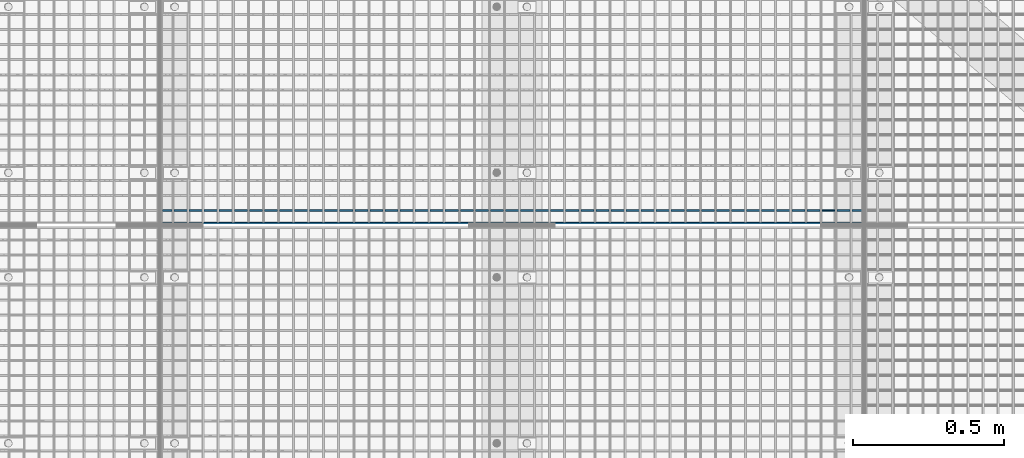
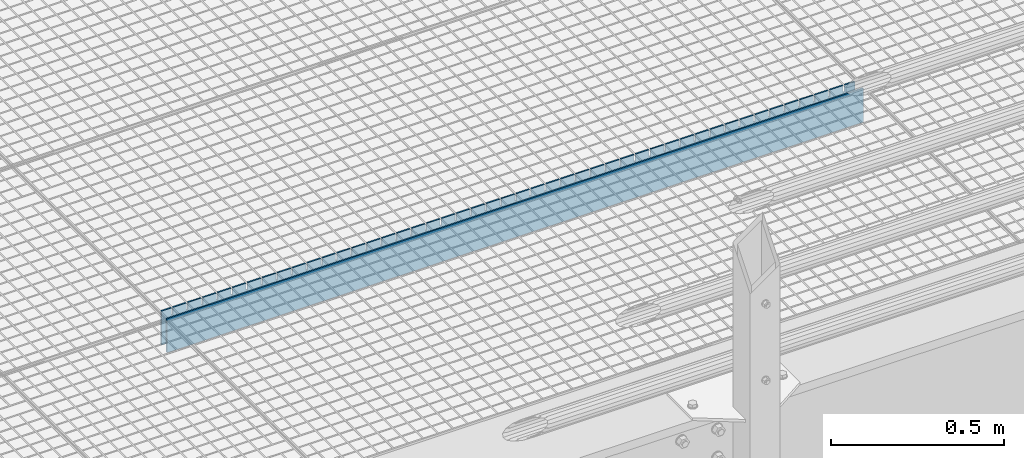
# One storey, part 192 of 1530: 2 beams.
"""IFC2X3 building model written with IfcOpenShell, lengths in millimetres."""

from ifc_helpers import new_model, si_unit, frame, origin_with_axes, place, context, subcontext, project, spatial, faceted_brep, material, type_object, element, save


model = new_model("IFC2X3")

# Units and contexts
model_context = context("Model", 3, precision=1e-05, world=origin_with_axes())
body_context = subcontext(model_context, "Body", "Model", "MODEL_VIEW")
ifc_project = project(units=[si_unit("LENGTHUNIT", "METRE", prefix="MILLI"), si_unit("AREAUNIT", "SQUARE_METRE"), si_unit("VOLUMEUNIT", "CUBIC_METRE"), si_unit("MASSUNIT", "GRAM", prefix="KILO"), si_unit("TIMEUNIT", "SECOND"), si_unit("PLANEANGLEUNIT", "RADIAN"), si_unit("SOLIDANGLEUNIT", "STERADIAN"), si_unit("THERMODYNAMICTEMPERATUREUNIT", "DEGREE_CELSIUS"), si_unit("LUMINOUSINTENSITYUNIT", "LUMEN")], contexts=[model_context])

# Site, building, storey
site_placement = place(None, origin_with_axes())
site = spatial("IfcSite", under=ifc_project, at=site_placement, Name="Brattvåg", CompositionType="ELEMENT")
building_placement = place(site_placement, origin_with_axes())
building = spatial("IfcBuilding", under=site, at=building_placement, Name="Undefined", CompositionType="ELEMENT")
storey_placement = place(building_placement, origin_with_axes())
storey = spatial("IfcBuildingStorey", under=building, at=storey_placement, Name="Undefined", CompositionType="ELEMENT", Elevation=0.0)

# Beams
ifc_material = material(Name="STEEL/S355J2")
beam_type = type_object("IfcBeamType", Name="120*5", PredefinedType="NOTDEFINED")
beam_1_placement = place(storey_placement, frame((5234.01317977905, 1099.99487304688, -59.9998626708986), z_axis=(0.0, 0.0, 1.0), x_axis=(-1.0, 1.99999855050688e-09, 0.0)))
element("IfcBeam", 1, at=beam_1_placement, inside=storey, type_object=beam_type, material=ifc_material, Name="GRATING", context=body_context, shape_type="Brep", body=[
    faceted_brep([(83.5790367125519, -2.50000000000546, 60.0000722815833), (83.5790367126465, -2.50000000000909, 35.0001373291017), (83.5790367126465, 2.50022888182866, 35.0001373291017), (83.5790367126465, 2.5, 60.0), (88.5790367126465, -2.50000000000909, 35.0001373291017), (88.5790367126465, 2.50022888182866, 35.0001373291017), (88.5790367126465, -2.50000000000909, 60.0001373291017), (88.5790367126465, 2.5, 60.0), (38.6284370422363, -2.50000000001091, 60.0001373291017), (38.6284370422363, 2.5, 60.0), (38.6284370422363, 2.49999999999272, 35.0001373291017), (38.6284370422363, -2.50000000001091, 35.0001373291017), (33.6284370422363, 2.49999999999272, 35.0001373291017), (33.6284370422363, -2.50000000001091, 35.0001373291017), (33.6284370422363, -2.5, 60.0), (33.6284370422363, 2.5, 60.0), (0.0, 2.5, 60.0), (0.0, -2.5, 60.0), (0.0, -2.5, -60.0), (0.0, 2.5, -60.0), (2319.99865722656, 2.5, -60.0), (2319.99865722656, -2.5, -60.0), (2319.99865722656, -2.5, 60.0), (2319.99865722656, 2.5, 60.0), (2286.37871932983, 2.5, 60.0), (2286.37871932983, -2.50000000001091, 60.0001373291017), (2286.37871932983, 2.49999999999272, 35.0001373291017), (2286.37871932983, -2.50000000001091, 35.0001373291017), (2281.37871932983, 2.49999999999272, 35.0001373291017), (2281.37871932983, -2.50000000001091, 35.0001373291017), (2281.37871932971, -2.50000000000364, 60.0000634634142), (2281.37871932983, 2.5, 60.0), (2236.42859649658, 2.5, 60.0), (2236.42859649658, -2.50000000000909, 60.0001373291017), (2236.42859649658, 2.50022888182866, 35.0001373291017), (2236.42859649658, -2.50000000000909, 35.0001373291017), (2231.42859649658, 2.50022888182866, 35.0001373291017), (2231.42859649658, -2.50000000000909, 35.0001373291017), (2231.42859649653, -2.50000000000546, 60.0000910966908), (2231.42859649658, 2.5, 60.0), (2186.47847366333, 2.5, 60.0), (2186.47847366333, -2.50000000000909, 60.0001373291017), (2186.47847366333, 2.50022888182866, 35.0001373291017), (2186.47847366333, -2.50000000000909, 35.0001373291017), (2181.47847366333, 2.50022888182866, 35.0001373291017), (2181.47847366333, -2.50000000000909, 35.0001373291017), (2181.47847366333, -2.5, 60.0), (2181.47847366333, 2.5, 60.0), (2136.52882766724, 2.5, 60.0), (2136.52882766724, -2.50000000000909, 60.0001373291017), (2136.52882766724, 2.50022888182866, 35.0001373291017), (2136.52882766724, -2.50000000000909, 35.0001373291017), (2131.52882766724, 2.50022888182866, 35.0001373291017), (2131.52882766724, -2.50000000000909, 35.0001373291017), (2131.52882766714, -2.50000000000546, 60.0000722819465), (2131.52882766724, 2.5, 60.0), (2086.57870483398, 2.5, 60.0), (2086.57870483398, -2.50000000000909, 60.0001373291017), (2086.57870483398, 2.50022888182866, 35.0001373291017), (2086.57870483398, -2.50000000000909, 35.0001373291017), (2081.57870483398, 2.50022888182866, 35.0001373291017), (2081.57870483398, -2.50000000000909, 35.0001373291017), (2081.57870483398, -2.5, 60.0), (2081.57870483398, 2.5, 60.0), (2036.62858200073, 2.5, 60.0), (2036.62858200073, -2.50000000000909, 60.0001373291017), (2036.62858200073, 2.50022888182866, 35.0001373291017), (2036.62858200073, -2.50000000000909, 35.0001373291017), (2031.62858200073, 2.50022888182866, 35.0001373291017), (2031.62858200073, -2.50000000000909, 35.0001373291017), (2031.62858200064, -2.50000000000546, 60.0000722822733), (2031.62858200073, 2.5, 60.0), (1986.67845916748, 2.5, 60.0), (1986.67845916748, -2.50000000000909, 60.0001373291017), (1986.67845916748, 2.50022888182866, 35.0001373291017), (1986.67845916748, -2.50000000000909, 35.0001373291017), (1981.67845916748, 2.50022888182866, 35.0001373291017), (1981.67845916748, -2.50000000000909, 35.0001373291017), (1981.67845916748, -2.5, 60.0), (1981.67845916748, 2.5, 60.0), (1936.72881317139, 2.5, 60.0), (1936.72881317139, -2.50000000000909, 60.0001373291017), (1936.72881317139, 2.50022888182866, 35.0001373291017), (1936.72881317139, -2.50000000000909, 35.0001373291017), (1931.72881317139, 2.50022888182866, 35.0001373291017), (1931.72881317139, -2.50000000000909, 35.0001373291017), (1931.72881317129, -2.50000000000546, 60.0000722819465), (1931.72881317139, 2.5, 60.0), (1886.77869033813, 2.5, 60.0), (1886.77869033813, -2.50000000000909, 60.0001373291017), (1886.77869033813, 2.50022888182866, 35.0001373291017), (1886.77869033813, -2.50000000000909, 35.0001373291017), (1881.77869033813, 2.50022888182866, 35.0001373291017), (1881.77869033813, -2.50000000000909, 35.0001373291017), (1881.77869033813, -2.5, 60.0), (1881.77869033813, 2.5, 60.0), (1836.82856750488, 2.5, 60.0), (1836.82856750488, -2.50000000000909, 60.0001373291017), (1836.82856750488, 2.50022888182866, 35.0001373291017), (1836.82856750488, -2.50000000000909, 35.0001373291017), (1831.82856750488, 2.50022888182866, 35.0001373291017), (1831.82856750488, -2.50000000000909, 35.0001373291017), (1831.82856750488, -2.5, 60.0), (1831.82856750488, 2.5, 60.0), (1786.87892150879, 2.5, 60.0), (1786.87892150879, -2.50000000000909, 60.0001373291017), (1786.87892150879, 2.50022888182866, 35.0001373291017), (1786.87892150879, -2.50000000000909, 35.0001373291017), (1781.87892150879, 2.50022888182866, 35.0001373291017), (1781.87892150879, -2.50000000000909, 35.0001373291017), (1781.87892150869, -2.50000000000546, 60.0000722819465), (1781.87892150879, 2.5, 60.0), (1736.92879867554, 2.5, 60.0), (1736.92879867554, -2.50000000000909, 60.0001373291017), (1736.92879867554, 2.50022888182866, 35.0001373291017), (1736.92879867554, -2.50000000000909, 35.0001373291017), (1731.92879867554, 2.50022888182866, 35.0001373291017), (1731.92879867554, -2.50000000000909, 35.0001373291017), (1731.92879867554, -2.5, 60.0), (1731.92879867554, 2.5, 60.0), (1686.97867584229, 2.5, 60.0), (1686.97867584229, -2.50000000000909, 60.0001373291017), (1686.97867584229, 2.50022888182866, 35.0001373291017), (1686.97867584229, -2.50000000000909, 35.0001373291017), (1681.97867584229, 2.50022888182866, 35.0001373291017), (1681.97867584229, -2.50000000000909, 35.0001373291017), (1681.97867584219, -2.50000000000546, 60.0000722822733), (1681.97867584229, 2.5, 60.0), (1637.02855300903, 2.5, 60.0), (1637.02855300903, -2.50000000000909, 60.0001373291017), (1637.02855300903, 2.50022888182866, 35.0001373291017), (1637.02855300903, -2.50000000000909, 35.0001373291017), (1632.02855300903, 2.50022888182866, 35.0001373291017), (1632.02855300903, -2.50000000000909, 35.0001373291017), (1632.02855300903, -2.5, 60.0), (1632.02855300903, 2.5, 60.0), (1587.07890701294, 2.5, 60.0), (1587.07890701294, -2.50000000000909, 60.0001373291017), (1587.07890701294, 2.50022888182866, 35.0001373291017), (1587.07890701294, -2.50000000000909, 35.0001373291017), (1582.07890701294, 2.50022888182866, 35.0001373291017), (1582.07890701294, -2.50000000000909, 35.0001373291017), (1582.07890701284, -2.50000000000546, 60.0000722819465), (1582.07890701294, 2.5, 60.0), (1537.12878417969, 2.5, 60.0), (1537.12878417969, -2.50000000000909, 60.0001373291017), (1537.12878417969, 2.50022888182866, 35.0001373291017), (1537.12878417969, -2.50000000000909, 35.0001373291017), (1532.12878417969, 2.50022888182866, 35.0001373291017), (1532.12878417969, -2.50000000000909, 35.0001373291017), (1532.12878417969, -2.5, 60.0), (1532.12878417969, 2.5, 60.0), (1487.17866134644, 2.5, 60.0), (1487.17866134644, -2.50000000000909, 60.0001373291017), (1487.17866134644, 2.50022888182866, 35.0001373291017), (1487.17866134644, -2.50000000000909, 35.0001373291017), (1482.17866134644, 2.50022888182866, 35.0001373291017), (1482.17866134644, -2.50000000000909, 35.0001373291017), (1482.17866134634, -2.50000000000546, 60.0000722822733), (1482.17866134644, 2.5, 60.0), (1437.22853851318, 2.5, 60.0), (1437.22853851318, -2.50000000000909, 60.0001373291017), (1437.22853851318, 2.50022888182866, 35.0001373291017), (1437.22853851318, -2.50000000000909, 35.0001373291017), (1432.22853851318, 2.50022888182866, 35.0001373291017), (1432.22853851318, -2.50000000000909, 35.0001373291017), (1432.22853851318, -2.5, 60.0), (1432.22853851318, 2.5, 60.0), (1387.27889251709, 2.5, 60.0), (1387.27889251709, -2.50000000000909, 60.0001373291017), (1387.27889251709, 2.50022888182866, 35.0001373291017), (1387.27889251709, -2.50000000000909, 35.0001373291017), (1382.27889251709, 2.50022888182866, 35.0001373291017), (1382.27889251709, -2.50000000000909, 35.0001373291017), (1382.278892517, -2.50000000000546, 60.0000722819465), (1382.27889251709, 2.5, 60.0), (1337.32876968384, 2.5, 60.0), (1337.32876968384, -2.50000000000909, 60.0001373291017), (1337.32876968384, 2.50022888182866, 35.0001373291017), (1337.32876968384, -2.50000000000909, 35.0001373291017), (1332.32876968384, 2.50022888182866, 35.0001373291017), (1332.32876968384, -2.50000000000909, 35.0001373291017), (1332.32876968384, -2.5, 60.0), (1332.32876968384, 2.5, 60.0), (1287.37864685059, 2.5, 60.0), (1287.37864685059, -2.50000000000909, 60.0001373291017), (1287.37864685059, 2.50022888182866, 35.0001373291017), (1287.37864685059, -2.50000000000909, 35.0001373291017), (1282.37864685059, 2.50022888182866, 35.0001373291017), (1282.37864685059, -2.50000000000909, 35.0001373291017), (1282.37864685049, -2.50000000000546, 60.0000722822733), (1282.37864685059, 2.5, 60.0), (1237.42852401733, 2.5, 60.0), (1237.42852401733, -2.50000000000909, 60.0001373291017), (1237.42852401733, 2.50022888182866, 35.0001373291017), (1237.42852401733, -2.50000000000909, 35.0001373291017), (1232.42852401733, 2.50022888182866, 35.0001373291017), (1232.42852401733, -2.50000000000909, 35.0001373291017), (1232.42852401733, -2.5, 60.0), (1232.42852401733, 2.5, 60.0), (1187.47887802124, 2.5, 60.0), (1187.47887802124, -2.50000000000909, 60.0001373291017), (1187.47887802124, 2.50022888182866, 35.0001373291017), (1187.47887802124, -2.50000000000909, 35.0001373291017), (1182.47887802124, 2.50022888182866, 35.0001373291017), (1182.47887802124, -2.50000000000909, 35.0001373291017), (1182.47887802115, -2.50000000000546, 60.0000722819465), (1182.47887802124, 2.5, 60.0), (1137.52875518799, 2.5, 60.0), (1137.52875518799, -2.50000000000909, 60.0001373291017), (1137.52875518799, 2.50022888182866, 35.0001373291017), (1137.52875518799, -2.50000000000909, 35.0001373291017), (1132.52875518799, 2.50022888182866, 35.0001373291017), (1132.52875518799, -2.50000000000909, 35.0001373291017), (1132.52875518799, -2.5, 60.0), (1132.52875518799, 2.5, 60.0), (1087.57863235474, 2.5, 60.0), (1087.57863235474, -2.50000000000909, 60.0001373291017), (1087.57863235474, 2.50022888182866, 35.0001373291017), (1087.57863235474, -2.50000000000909, 35.0001373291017), (1082.57863235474, 2.50022888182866, 35.0001373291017), (1082.57863235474, -2.50000000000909, 35.0001373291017), (1082.57863235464, -2.50000000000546, 60.0000722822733), (1082.57863235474, 2.5, 60.0), (1037.62850952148, 2.5, 60.0), (1037.62850952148, -2.50000000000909, 60.0001373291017), (1037.62850952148, 2.50022888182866, 35.0001373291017), (1037.62850952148, -2.50000000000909, 35.0001373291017), (1032.62850952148, 2.50022888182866, 35.0001373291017), (1032.62850952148, -2.50000000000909, 35.0001373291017), (1032.62850952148, -2.5, 60.0), (1032.62850952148, 2.5, 60.0), (987.678863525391, 2.5, 60.0), (987.678863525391, -2.50000000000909, 60.0001373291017), (987.678863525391, 2.50022888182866, 35.0001373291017), (987.678863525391, -2.50000000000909, 35.0001373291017), (982.678863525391, 2.50022888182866, 35.0001373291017), (982.678863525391, -2.50000000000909, 35.0001373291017), (982.678863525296, -2.50000000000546, 60.0000722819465), (982.678863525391, 2.5, 60.0), (937.728740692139, 2.5, 60.0), (937.728740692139, -2.50000000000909, 60.0001373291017), (937.728740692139, 2.50022888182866, 35.0001373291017), (937.728740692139, -2.50000000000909, 35.0001373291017), (932.728740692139, 2.50022888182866, 35.0001373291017), (932.728740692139, -2.50000000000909, 35.0001373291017), (932.728740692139, -2.5, 60.0), (932.728740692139, 2.5, 60.0), (887.778617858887, 2.5, 60.0), (887.778617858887, -2.50000000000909, 60.0001373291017), (887.778617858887, 2.50022888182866, 35.0001373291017), (887.778617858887, -2.50000000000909, 35.0001373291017), (882.778617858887, 2.50022888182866, 35.0001373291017), (882.778617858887, -2.50000000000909, 35.0001373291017), (882.778617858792, -2.50000000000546, 60.0000722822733), (882.778617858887, 2.5, 60.0), (837.828495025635, 2.5, 60.0), (837.828495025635, -2.50000000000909, 60.0001373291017), (837.828495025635, 2.50022888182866, 35.0001373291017), (837.828495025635, -2.50000000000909, 35.0001373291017), (832.828495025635, 2.50022888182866, 35.0001373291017), (832.828495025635, -2.50000000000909, 35.0001373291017), (832.828495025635, -2.5, 60.0), (832.828495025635, 2.5, 60.0), (787.878849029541, 2.5, 60.0), (787.878849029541, -2.50000000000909, 60.0001373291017), (787.878849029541, 2.50022888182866, 35.0001373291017), (787.878849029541, -2.50000000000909, 35.0001373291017), (782.878849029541, 2.50022888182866, 35.0001373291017), (782.878849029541, -2.50000000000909, 35.0001373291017), (782.878849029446, -2.50000000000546, 60.0000722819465), (782.878849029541, 2.5, 60.0), (737.928726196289, 2.5, 60.0), (737.928726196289, -2.50000000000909, 60.0001373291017), (737.928726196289, 2.50022888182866, 35.0001373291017), (737.928726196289, -2.50000000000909, 35.0001373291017), (732.928726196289, 2.50022888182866, 35.0001373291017), (732.928726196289, -2.50000000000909, 35.0001373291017), (732.928726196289, -2.5, 60.0), (732.928726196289, 2.5, 60.0), (687.978603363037, 2.5, 60.0), (687.978603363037, -2.50000000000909, 60.0001373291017), (687.978603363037, 2.50022888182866, 35.0001373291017), (687.978603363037, -2.50000000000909, 35.0001373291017), (682.978603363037, 2.50022888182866, 35.0001373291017), (682.978603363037, -2.50000000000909, 35.0001373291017), (682.978603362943, -2.50000000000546, 60.0000722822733), (682.978603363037, 2.5, 60.0), (638.028480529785, 2.5, 60.0), (638.028480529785, -2.50000000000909, 60.0001373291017), (638.028480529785, 2.50022888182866, 35.0001373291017), (638.028480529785, -2.50000000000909, 35.0001373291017), (633.028480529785, 2.50022888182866, 35.0001373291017), (633.028480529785, -2.50000000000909, 35.0001373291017), (633.028480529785, -2.5, 60.0), (633.028480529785, 2.5, 60.0), (588.078834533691, 2.5, 60.0), (588.078834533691, -2.50000000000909, 60.0001373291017), (588.078834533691, 2.50022888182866, 35.0001373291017), (588.078834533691, -2.50000000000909, 35.0001373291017), (583.078834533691, 2.50022888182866, 35.0001373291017), (583.078834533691, -2.50000000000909, 35.0001373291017), (583.078834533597, -2.50000000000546, 60.0000722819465), (583.078834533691, 2.5, 60.0), (538.128711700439, 2.5, 60.0), (538.128711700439, -2.50000000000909, 60.0001373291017), (538.128711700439, 2.50022888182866, 35.0001373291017), (538.128711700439, -2.50000000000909, 35.0001373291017), (533.128711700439, 2.50022888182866, 35.0001373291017), (533.128711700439, -2.50000000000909, 35.0001373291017), (533.128711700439, -2.5, 60.0), (533.128711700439, 2.5, 60.0), (488.178588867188, 2.5, 60.0), (488.178588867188, -2.50000000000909, 60.0001373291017), (488.178588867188, 2.50022888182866, 35.0001373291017), (488.178588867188, -2.50000000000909, 35.0001373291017), (483.178588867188, 2.50022888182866, 35.0001373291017), (483.178588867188, -2.50000000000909, 35.0001373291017), (483.178588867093, -2.50000000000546, 60.0000722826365), (483.178588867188, 2.5, 60.0), (438.228942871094, 2.5, 60.0), (438.228942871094, -2.50000000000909, 60.0001373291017), (438.228942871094, 2.50022888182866, 35.0001373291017), (438.228942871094, -2.50000000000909, 35.0001373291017), (433.228942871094, 2.50022888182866, 35.0001373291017), (433.228942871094, -2.50000000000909, 35.0001373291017), (433.228942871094, -2.5, 60.0), (433.228942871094, 2.5, 60.0), (388.278820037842, 2.5, 60.0), (388.278820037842, -2.50000000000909, 60.0001373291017), (388.278820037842, 2.50022888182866, 35.0001373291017), (388.278820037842, -2.50000000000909, 35.0001373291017), (383.278820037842, 2.50022888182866, 35.0001373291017), (383.278820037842, -2.50000000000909, 35.0001373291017), (383.278820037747, -2.50000000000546, 60.0000722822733), (383.278820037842, 2.5, 60.0), (338.32869720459, 2.5, 60.0), (338.32869720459, -2.50000000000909, 60.0001373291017), (338.32869720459, 2.50022888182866, 35.0001373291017), (338.32869720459, -2.50000000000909, 35.0001373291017), (333.32869720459, 2.50022888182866, 35.0001373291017), (333.32869720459, -2.50000000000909, 35.0001373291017), (333.32869720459, -2.5, 60.0), (333.32869720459, 2.5, 60.0), (288.378574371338, 2.5, 60.0), (288.378574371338, -2.50000000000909, 60.0001373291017), (288.378574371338, 2.50022888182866, 35.0001373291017), (288.378574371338, -2.50000000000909, 35.0001373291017), (283.378574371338, 2.50022888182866, 35.0001373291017), (283.378574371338, -2.50000000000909, 35.0001373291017), (283.378574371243, -2.50000000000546, 60.0000722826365), (283.378574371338, 2.5, 60.0), (238.428928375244, 2.5, 60.0), (238.428928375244, -2.50000000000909, 60.0001373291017), (238.428928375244, 2.50022888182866, 35.0001373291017), (238.428928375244, -2.50000000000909, 35.0001373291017), (233.428928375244, 2.50022888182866, 35.0001373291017), (233.428928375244, -2.50000000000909, 35.0001373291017), (233.428928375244, -2.5, 60.0), (233.428928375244, 2.5, 60.0), (188.478328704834, 2.5, 60.0), (188.478328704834, -2.50000000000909, 60.0001373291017), (188.478328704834, 2.50022888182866, 35.0001373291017), (188.478328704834, -2.50000000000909, 35.0001373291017), (183.478328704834, 2.50022888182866, 35.0001373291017), (183.478328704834, -2.50000000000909, 35.0001373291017), (183.478328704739, -2.50000000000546, 60.0000722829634), (183.478328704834, 2.5, 60.0), (138.52868270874, 2.5, 60.0), (138.52868270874, -2.50000000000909, 60.0001373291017), (138.52868270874, 2.50022888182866, 35.0001373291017), (138.52868270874, -2.50000000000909, 35.0001373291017), (133.52868270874, 2.50022888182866, 35.0001373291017), (133.52868270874, -2.50000000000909, 35.0001373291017), (133.52868270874, -2.5, 60.0), (133.52868270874, 2.5, 60.0)], [[[0, 1, 2, 3]], [[4, 5, 2, 1]], [[6, 7, 5, 4]], [[8, 9, 10, 11]], [[11, 10, 12, 13]], [[14, 13, 12, 15]], [[16, 17, 14, 15]], [[18, 17, 16, 19]], [[18, 19, 20, 21]], [[22, 21, 20, 23]], [[22, 23, 24, 25]], [[25, 24, 26, 27]], [[27, 26, 28, 29]], [[30, 29, 28, 31]], [[32, 33, 30, 31]], [[33, 32, 34, 35]], [[35, 34, 36, 37]], [[38, 37, 36, 39]], [[40, 41, 38, 39]], [[41, 40, 42, 43]], [[43, 42, 44, 45]], [[46, 45, 44, 47]], [[46, 47, 48, 49]], [[49, 48, 50, 51]], [[51, 50, 52, 53]], [[54, 53, 52, 55]], [[56, 57, 54, 55]], [[57, 56, 58, 59]], [[59, 58, 60, 61]], [[62, 61, 60, 63]], [[62, 63, 64, 65]], [[65, 64, 66, 67]], [[67, 66, 68, 69]], [[70, 69, 68, 71]], [[72, 73, 70, 71]], [[73, 72, 74, 75]], [[75, 74, 76, 77]], [[78, 77, 76, 79]], [[78, 79, 80, 81]], [[81, 80, 82, 83]], [[83, 82, 84, 85]], [[86, 85, 84, 87]], [[88, 89, 86, 87]], [[89, 88, 90, 91]], [[91, 90, 92, 93]], [[94, 93, 92, 95]], [[94, 95, 96, 97]], [[97, 96, 98, 99]], [[99, 98, 100, 101]], [[102, 101, 100, 103]], [[102, 103, 104, 105]], [[105, 104, 106, 107]], [[107, 106, 108, 109]], [[110, 109, 108, 111]], [[112, 113, 110, 111]], [[113, 112, 114, 115]], [[115, 114, 116, 117]], [[118, 117, 116, 119]], [[118, 119, 120, 121]], [[121, 120, 122, 123]], [[123, 122, 124, 125]], [[126, 125, 124, 127]], [[128, 129, 126, 127]], [[129, 128, 130, 131]], [[131, 130, 132, 133]], [[134, 133, 132, 135]], [[134, 135, 136, 137]], [[137, 136, 138, 139]], [[139, 138, 140, 141]], [[142, 141, 140, 143]], [[144, 145, 142, 143]], [[145, 144, 146, 147]], [[147, 146, 148, 149]], [[150, 149, 148, 151]], [[150, 151, 152, 153]], [[153, 152, 154, 155]], [[155, 154, 156, 157]], [[158, 157, 156, 159]], [[160, 161, 158, 159]], [[161, 160, 162, 163]], [[163, 162, 164, 165]], [[166, 165, 164, 167]], [[166, 167, 168, 169]], [[169, 168, 170, 171]], [[171, 170, 172, 173]], [[174, 173, 172, 175]], [[176, 177, 174, 175]], [[177, 176, 178, 179]], [[179, 178, 180, 181]], [[182, 181, 180, 183]], [[182, 183, 184, 185]], [[185, 184, 186, 187]], [[187, 186, 188, 189]], [[190, 189, 188, 191]], [[192, 193, 190, 191]], [[193, 192, 194, 195]], [[195, 194, 196, 197]], [[198, 197, 196, 199]], [[198, 199, 200, 201]], [[201, 200, 202, 203]], [[203, 202, 204, 205]], [[206, 205, 204, 207]], [[208, 209, 206, 207]], [[209, 208, 210, 211]], [[211, 210, 212, 213]], [[214, 213, 212, 215]], [[214, 215, 216, 217]], [[217, 216, 218, 219]], [[219, 218, 220, 221]], [[222, 221, 220, 223]], [[224, 225, 222, 223]], [[225, 224, 226, 227]], [[227, 226, 228, 229]], [[230, 229, 228, 231]], [[230, 231, 232, 233]], [[233, 232, 234, 235]], [[235, 234, 236, 237]], [[238, 237, 236, 239]], [[240, 241, 238, 239]], [[241, 240, 242, 243]], [[243, 242, 244, 245]], [[246, 245, 244, 247]], [[246, 247, 248, 249]], [[249, 248, 250, 251]], [[251, 250, 252, 253]], [[254, 253, 252, 255]], [[256, 257, 254, 255]], [[257, 256, 258, 259]], [[259, 258, 260, 261]], [[262, 261, 260, 263]], [[262, 263, 264, 265]], [[265, 264, 266, 267]], [[267, 266, 268, 269]], [[270, 269, 268, 271]], [[272, 273, 270, 271]], [[273, 272, 274, 275]], [[275, 274, 276, 277]], [[278, 277, 276, 279]], [[278, 279, 280, 281]], [[281, 280, 282, 283]], [[283, 282, 284, 285]], [[286, 285, 284, 287]], [[288, 289, 286, 287]], [[289, 288, 290, 291]], [[291, 290, 292, 293]], [[294, 293, 292, 295]], [[294, 295, 296, 297]], [[297, 296, 298, 299]], [[299, 298, 300, 301]], [[302, 301, 300, 303]], [[304, 305, 302, 303]], [[305, 304, 306, 307]], [[307, 306, 308, 309]], [[310, 309, 308, 311]], [[310, 311, 312, 313]], [[313, 312, 314, 315]], [[315, 314, 316, 317]], [[318, 317, 316, 319]], [[320, 321, 318, 319]], [[321, 320, 322, 323]], [[323, 322, 324, 325]], [[326, 325, 324, 327]], [[326, 327, 328, 329]], [[329, 328, 330, 331]], [[331, 330, 332, 333]], [[334, 333, 332, 335]], [[336, 337, 334, 335]], [[337, 336, 338, 339]], [[339, 338, 340, 341]], [[342, 341, 340, 343]], [[342, 343, 344, 345]], [[345, 344, 346, 347]], [[347, 346, 348, 349]], [[350, 349, 348, 351]], [[352, 353, 350, 351]], [[353, 352, 354, 355]], [[355, 354, 356, 357]], [[358, 357, 356, 359]], [[358, 359, 360, 361]], [[361, 360, 362, 363]], [[363, 362, 364, 365]], [[366, 365, 364, 367]], [[368, 369, 366, 367]], [[369, 368, 370, 371]], [[371, 370, 372, 373]], [[374, 373, 372, 375]], [[1, 0, 8, 11, 13, 14, 17, 18, 21, 22, 25, 27, 29, 30, 33, 35, 37, 38, 41, 43, 45, 46, 49, 51, 53, 54, 57, 59, 61, 62, 65, 67, 69, 70, 73, 75, 77, 78, 81, 83, 85, 86, 89, 91, 93, 94, 97, 99, 101, 102, 105, 107, 109, 110, 113, 115, 117, 118, 121, 123, 125, 126, 129, 131, 133, 134, 137, 139, 141, 142, 145, 147, 149, 150, 153, 155, 157, 158, 161, 163, 165, 166, 169, 171, 173, 174, 177, 179, 181, 182, 185, 187, 189, 190, 193, 195, 197, 198, 201, 203, 205, 206, 209, 211, 213, 214, 217, 219, 221, 222, 225, 227, 229, 230, 233, 235, 237, 238, 241, 243, 245, 246, 249, 251, 253, 254, 257, 259, 261, 262, 265, 267, 269, 270, 273, 275, 277, 278, 281, 283, 285, 286, 289, 291, 293, 294, 297, 299, 301, 302, 305, 307, 309, 310, 313, 315, 317, 318, 321, 323, 325, 326, 329, 331, 333, 334, 337, 339, 341, 342, 345, 347, 349, 350, 353, 355, 357, 358, 361, 363, 365, 366, 369, 371, 373, 374, 6, 4]], [[9, 8, 0, 3]], [[375, 372, 370, 368, 367, 364, 362, 360, 359, 356, 354, 352, 351, 348, 346, 344, 343, 340, 338, 336, 335, 332, 330, 328, 327, 324, 322, 320, 319, 316, 314, 312, 311, 308, 306, 304, 303, 300, 298, 296, 295, 292, 290, 288, 287, 284, 282, 280, 279, 276, 274, 272, 271, 268, 266, 264, 263, 260, 258, 256, 255, 252, 250, 248, 247, 244, 242, 240, 239, 236, 234, 232, 231, 228, 226, 224, 223, 220, 218, 216, 215, 212, 210, 208, 207, 204, 202, 200, 199, 196, 194, 192, 191, 188, 186, 184, 183, 180, 178, 176, 175, 172, 170, 168, 167, 164, 162, 160, 159, 156, 154, 152, 151, 148, 146, 144, 143, 140, 138, 136, 135, 132, 130, 128, 127, 124, 122, 120, 119, 116, 114, 112, 111, 108, 106, 104, 103, 100, 98, 96, 95, 92, 90, 88, 87, 84, 82, 80, 79, 76, 74, 72, 71, 68, 66, 64, 63, 60, 58, 56, 55, 52, 50, 48, 47, 44, 42, 40, 39, 36, 34, 32, 31, 28, 26, 24, 23, 20, 19, 16, 15, 12, 10, 9, 3, 2, 5, 7]], [[374, 375, 7, 6]]]),
])
beam_2_placement = place(storey_placement, frame((2909.01067138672, 1058.49868774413, -59.9998626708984), z_axis=(0.0, 0.0, 1.0), x_axis=(1.0, 0.0, 0.0)))
element("IfcBeam", 2, at=beam_2_placement, inside=storey, type_object=beam_type, material=ifc_material, Name="GRATING", context=body_context, shape_type="Brep", body=[
    faceted_brep([(0.0, 2.5, -60.0), (0.0, 2.5, 60.0), (2329.99832153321, 2.5, 60.0), (2329.99832153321, 2.5, -60.0), (0.0, -2.5, 60.0), (2329.99832153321, -2.5, 60.0), (0.0, -2.5, -60.0), (2329.99832153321, -2.5, -60.0)], [[[0, 1, 2, 3]], [[1, 4, 5, 2]], [[4, 6, 7, 5]], [[6, 0, 3, 7]], [[5, 7, 3, 2]], [[6, 4, 1, 0]]]),
])

save(model, "model.ifc")
